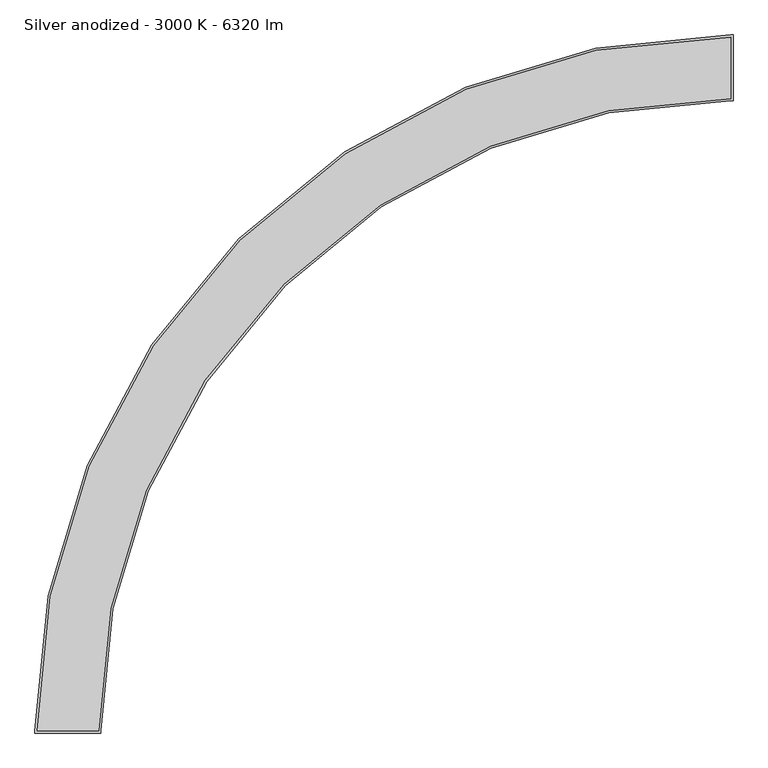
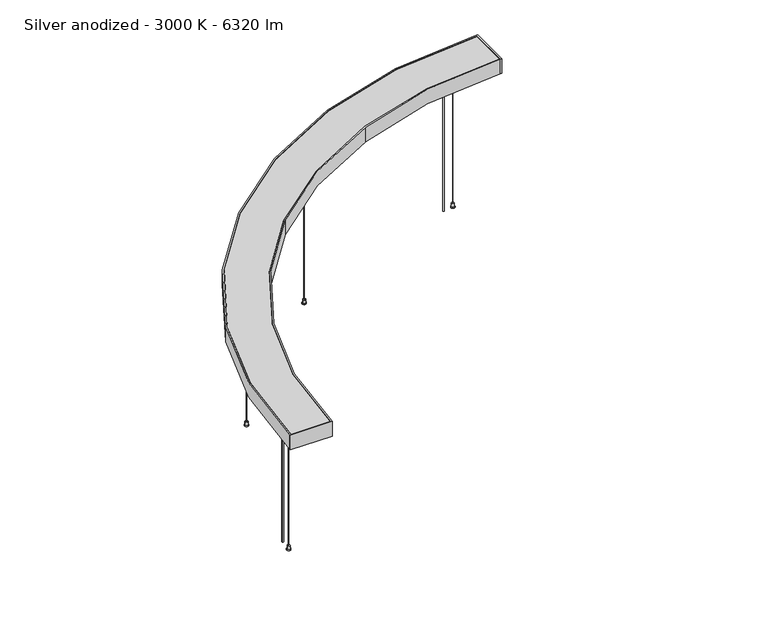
"""IFC4 building model written with IfcOpenShell, lengths in millimetres: light fixture geometry, KLUŚ - MIFOR - MI-SNAKE-02 : Silver anodized - 3000 K - 6320 lm."""

from ifc_helpers import new_model, si_unit, point, frame, frame_2d, origin, origin_with_axes, place, context, project, spatial, polyline, circle_curve, trimmed, segment, composite_curve, outline, extrude, source, transform, mapped, element, save


def silver_anodized_3000_k_6320_lm_d5955773(model_context):
    return source(origin(), model_context, "Body", "SweptSolid", [
        extrude(outline(composite_curve([segment(trimmed(circle_curve(frame_2d((-583.6634227, -763.1111727)), 1.75), [point((-581.9134227, -763.1111727))], [point((-585.4134227, -763.1111727))], False, "CARTESIAN"), True, "CONTINUOUS"), segment(trimmed(circle_curve(frame_2d((-583.6634227, -763.1111727)), 1.75), [point((-585.4134227, -763.1111727))], [point((-581.9134227, -763.1111727))], False, "CARTESIAN"), True, "CONTINUOUS")], self_intersect=False)), frame((0.0, 0.0, 500.5), z_axis=(0.0, 0.0, 1.0), x_axis=(1.0, 0.0, 0.0)), (0.0, 0.0, 1.0), 3.5),
        extrude(outline(composite_curve([segment(trimmed(circle_curve(frame_2d((-361.5367234, -117.0732088)), 1.75), [point((-359.7867234, -117.0732088))], [point((-363.2867234, -117.0732088))], False, "CARTESIAN"), True, "CONTINUOUS"), segment(trimmed(circle_curve(frame_2d((-361.5367234, -117.0732088)), 1.75), [point((-363.2867234, -117.0732088))], [point((-359.7867234, -117.0732088))], False, "CARTESIAN"), True, "CONTINUOUS")], self_intersect=False)), frame((0.0, 0.0, 500.5), z_axis=(0.0, 0.0, 1.0), x_axis=(1.0, 0.0, 0.0)), (0.0, 0.0, 1.0), 3.5),
        extrude(outline(composite_curve([segment(trimmed(circle_curve(frame_2d((123.4703097, 365.5194387)), 1.75), [point((125.2203097, 365.5194387))], [point((121.7203097, 365.5194387))], False, "CARTESIAN"), True, "CONTINUOUS"), segment(trimmed(circle_curve(frame_2d((123.4703097, 365.5194387)), 1.75), [point((121.7203097, 365.5194387))], [point((125.2203097, 365.5194387))], False, "CARTESIAN"), True, "CONTINUOUS")], self_intersect=False)), frame((0.0, 0.0, 500.5), z_axis=(0.0, 0.0, 1.0), x_axis=(1.0, 0.0, 0.0)), (0.0, 0.0, 1.0), 3.5),
        extrude(outline(composite_curve([segment(trimmed(circle_curve(frame_2d((782.9245171, 585.579149)), 1.75), [point((784.6745171, 585.579149))], [point((781.1745171, 585.579149))], False, "CARTESIAN"), True, "CONTINUOUS"), segment(trimmed(circle_curve(frame_2d((782.9245171, 585.579149)), 1.75), [point((781.1745171, 585.579149))], [point((784.6745171, 585.579149))], False, "CARTESIAN"), True, "CONTINUOUS")], self_intersect=False)), frame((0.0, 0.0, 500.5), z_axis=(0.0, 0.0, 1.0), x_axis=(1.0, 0.0, 0.0)), (0.0, 0.0, 1.0), 3.5),
        extrude(outline(composite_curve([segment(trimmed(circle_curve(frame_2d((-583.6634227, -763.1111727)), 5.0), [point((-578.6634227, -763.1111727))], [point((-588.6634227, -763.1111727))], False, "CARTESIAN"), True, "CONTINUOUS"), segment(trimmed(circle_curve(frame_2d((-583.6634227, -763.1111727)), 5.0), [point((-588.6634227, -763.1111727))], [point((-578.6634227, -763.1111727))], False, "CARTESIAN"), True, "CONTINUOUS")], self_intersect=False)), frame((0.0, 0.0, 3.0), z_axis=(0.0, 0.0, 1.0), x_axis=(1.0, 0.0, 0.0)), (0.0, 0.0, 1.0), 12.0),
        extrude(outline(composite_curve([segment(trimmed(circle_curve(frame_2d((-361.5367234, -117.0732088)), 5.0), [point((-356.5367234, -117.0732088))], [point((-366.5367234, -117.0732088))], False, "CARTESIAN"), True, "CONTINUOUS"), segment(trimmed(circle_curve(frame_2d((-361.5367234, -117.0732088)), 5.0), [point((-366.5367234, -117.0732088))], [point((-356.5367234, -117.0732088))], False, "CARTESIAN"), True, "CONTINUOUS")], self_intersect=False)), frame((0.0, 0.0, 3.0), z_axis=(0.0, 0.0, 1.0), x_axis=(1.0, 0.0, 0.0)), (0.0, 0.0, 1.0), 12.0),
        extrude(outline(composite_curve([segment(trimmed(circle_curve(frame_2d((123.4703097, 365.5194387)), 5.0), [point((128.4703097, 365.5194387))], [point((118.4703097, 365.5194387))], False, "CARTESIAN"), True, "CONTINUOUS"), segment(trimmed(circle_curve(frame_2d((123.4703097, 365.5194387)), 5.0), [point((118.4703097, 365.5194387))], [point((128.4703097, 365.5194387))], False, "CARTESIAN"), True, "CONTINUOUS")], self_intersect=False)), frame((0.0, 0.0, 3.0), z_axis=(0.0, 0.0, 1.0), x_axis=(1.0, 0.0, 0.0)), (0.0, 0.0, 1.0), 12.0),
        extrude(outline(composite_curve([segment(trimmed(circle_curve(frame_2d((782.9245171, 585.579149)), 5.0), [point((787.9245171, 585.579149))], [point((777.9245171, 585.579149))], False, "CARTESIAN"), True, "CONTINUOUS"), segment(trimmed(circle_curve(frame_2d((782.9245171, 585.579149)), 5.0), [point((777.9245171, 585.579149))], [point((787.9245171, 585.579149))], False, "CARTESIAN"), True, "CONTINUOUS")], self_intersect=False)), frame((0.0, 0.0, 3.0), z_axis=(0.0, 0.0, 1.0), x_axis=(1.0, 0.0, 0.0)), (0.0, 0.0, 1.0), 12.0),
        extrude(outline(composite_curve([segment(trimmed(circle_curve(frame_2d((-578.2793624, -717.7383985)), 2.5), [point((-575.7793624, -717.7383985))], [point((-580.7793624, -717.7383985))], False, "CARTESIAN"), True, "CONTINUOUS"), segment(trimmed(circle_curve(frame_2d((-578.2793624, -717.7383985)), 2.5), [point((-580.7793624, -717.7383985))], [point((-575.7793624, -717.7383985))], False, "CARTESIAN"), True, "CONTINUOUS")], self_intersect=False)), origin_with_axes(), (0.0, 0.0, 1.0), 516.0),
        extrude(outline(composite_curve([segment(trimmed(circle_curve(frame_2d((747.7004526, 581.9907971)), 2.5), [point((750.2004526, 581.9907971))], [point((745.2004526, 581.9907971))], False, "CARTESIAN"), True, "CONTINUOUS"), segment(trimmed(circle_curve(frame_2d((747.7004526, 581.9907971)), 2.5), [point((745.2004526, 581.9907971))], [point((750.2004526, 581.9907971))], False, "CARTESIAN"), True, "CONTINUOUS")], self_intersect=False)), origin_with_axes(), (0.0, 0.0, 1.0), 516.0),
        extrude(outline(composite_curve([segment(polyline([(-521.6630987, -913.3369012), (-661.6630987, -913.3369012)]), True, "CONTINUOUS"), segment(trimmed(circle_curve(frame_2d((913.3369012, -913.3369012)), 1574.9999999), [point((-661.6630987, -913.3369012))], [point((-542.8034853, -313.1034678))], False, "CARTESIAN"), True, "CONTINUOUS"), segment(trimmed(circle_curve(frame_2d((913.3369012, -913.3369012)), 1574.9999999), [point((-542.8034853, -313.1034678))], [point((-200.3562792, 200.3562791))], False, "CARTESIAN"), True, "CONTINUOUS"), segment(trimmed(circle_curve(frame_2d((913.3369012, -913.3369012)), 1574.9999999), [point((-200.3562792, 200.3562791))], [point((313.1034678, 542.8034853))], False, "CARTESIAN"), True, "CONTINUOUS"), segment(trimmed(circle_curve(frame_2d((913.3369012, -913.3369012)), 1574.9999999), [point((313.1034678, 542.8034853))], [point((913.3369012, 661.6630987))], False, "CARTESIAN"), True, "CONTINUOUS"), segment(polyline([(913.3369012, 661.6630987), (913.3369012, 521.6630987)]), True, "CONTINUOUS"), segment(trimmed(circle_curve(frame_2d((913.3369012, -913.3369012)), 1434.9999999), [point((913.3369012, 521.6630987))], [point((366.6353508, 413.4420611))], True, "CARTESIAN"), True, "CONTINUOUS"), segment(trimmed(circle_curve(frame_2d((913.3369012, -913.3369012)), 1434.9999999), [point((366.6353508, 413.4420611))], [point((-101.8360129, 100.8864244))], True, "CARTESIAN"), True, "CONTINUOUS"), segment(trimmed(circle_curve(frame_2d((913.3369012, -913.3369012)), 1434.9999999), [point((-101.8360129, 100.8864244))], [point((-413.4670089, -366.6959003))], True, "CARTESIAN"), True, "CONTINUOUS"), segment(trimmed(circle_curve(frame_2d((913.3369012, -913.3369012)), 1434.9999999), [point((-413.4670089, -366.6959003))], [point((-521.6630987, -913.3369012))], True, "CARTESIAN"), True, "CONTINUOUS")], self_intersect=False)), frame((0.0, 0.0, 516.0), z_axis=(0.0, 0.0, 1.0), x_axis=(1.0, 0.0, 0.0)), (0.0, 0.0, 1.0), 2.0),
        extrude(outline(composite_curve([segment(polyline([(-521.6630987, -913.3369012), (-661.6630987, -913.3369012)]), True, "CONTINUOUS"), segment(trimmed(circle_curve(frame_2d((913.3369012, -913.3369012)), 1574.9999999), [point((-661.6630987, -913.3369012))], [point((-542.8034853, -313.1034678))], False, "CARTESIAN"), True, "CONTINUOUS"), segment(trimmed(circle_curve(frame_2d((913.3369012, -913.3369012)), 1574.9999999), [point((-542.8034853, -313.1034678))], [point((-200.3562792, 200.3562791))], False, "CARTESIAN"), True, "CONTINUOUS"), segment(trimmed(circle_curve(frame_2d((913.3369012, -913.3369012)), 1574.9999999), [point((-200.3562792, 200.3562791))], [point((313.1034678, 542.8034853))], False, "CARTESIAN"), True, "CONTINUOUS"), segment(trimmed(circle_curve(frame_2d((913.3369012, -913.3369012)), 1574.9999999), [point((313.1034678, 542.8034853))], [point((913.3369012, 661.6630987))], False, "CARTESIAN"), True, "CONTINUOUS"), segment(polyline([(913.3369012, 661.6630987), (913.3369012, 521.6630987)]), True, "CONTINUOUS"), segment(trimmed(circle_curve(frame_2d((913.3369012, -913.3369012)), 1434.9999999), [point((913.3369012, 521.6630987))], [point((366.6353508, 413.4420611))], True, "CARTESIAN"), True, "CONTINUOUS"), segment(trimmed(circle_curve(frame_2d((913.3369012, -913.3369012)), 1434.9999999), [point((366.6353508, 413.4420611))], [point((-101.8360129, 100.8864244))], True, "CARTESIAN"), True, "CONTINUOUS"), segment(trimmed(circle_curve(frame_2d((913.3369012, -913.3369012)), 1434.9999999), [point((-101.8360129, 100.8864244))], [point((-413.4670089, -366.6959003))], True, "CARTESIAN"), True, "CONTINUOUS"), segment(trimmed(circle_curve(frame_2d((913.3369012, -913.3369012)), 1434.9999999), [point((-413.4670089, -366.6959003))], [point((-521.6630987, -913.3369012))], True, "CARTESIAN"), True, "CONTINUOUS")], self_intersect=False)), frame((0.0, 0.0, 551.0), z_axis=(0.0, 0.0, 1.0), x_axis=(1.0, 0.0, 0.0)), (0.0, 0.0, 1.0), 2.0),
        extrude(outline(composite_curve([segment(polyline([(-516.6630987, -918.3369012), (-666.6630987, -918.3369012), (-666.6630987, -913.3369012)]), True, "CONTINUOUS"), segment(trimmed(circle_curve(frame_2d((913.3369012, -913.3369012)), 1579.9999999), [point((-666.6630987, -913.3369012))], [point((-547.4261532, -311.1979649))], False, "CARTESIAN"), True, "CONTINUOUS"), segment(trimmed(circle_curve(frame_2d((913.3369012, -913.3369012)), 1579.9999999), [point((-547.4261532, -311.1979649))], [point((-203.8918131, 203.891813))], False, "CARTESIAN"), True, "CONTINUOUS"), segment(trimmed(circle_curve(frame_2d((913.3369012, -913.3369012)), 1579.9999999), [point((-203.8918131, 203.891813))], [point((311.1979648, 547.4261532))], False, "CARTESIAN"), True, "CONTINUOUS"), segment(trimmed(circle_curve(frame_2d((913.3369012, -913.3369012)), 1579.9999999), [point((311.1979648, 547.4261532))], [point((913.3369012, 666.6630987))], False, "CARTESIAN"), True, "CONTINUOUS"), segment(polyline([(913.3369012, 666.6630987), (918.3369013, 666.6630987), (918.3369013, 516.6630987), (913.3369012, 516.6630987)]), True, "CONTINUOUS"), segment(trimmed(circle_curve(frame_2d((913.3369012, -913.3369012)), 1429.9999999), [point((913.3369012, 516.6630987))], [point((368.5402343, 408.8191378))], True, "CARTESIAN"), True, "CONTINUOUS"), segment(trimmed(circle_curve(frame_2d((913.3369012, -913.3369012)), 1429.9999999), [point((368.5402343, 408.8191378))], [point((-98.2988251, 97.3525452))], True, "CARTESIAN"), True, "CONTINUOUS"), segment(trimmed(circle_curve(frame_2d((913.3369012, -913.3369012)), 1429.9999999), [point((-98.2988251, 97.3525452))], [point((-408.8439988, -368.6005727))], True, "CARTESIAN"), True, "CONTINUOUS"), segment(trimmed(circle_curve(frame_2d((913.3369012, -913.3369012)), 1429.9999999), [point((-408.8439988, -368.6005727))], [point((-516.6630987, -913.3369012))], True, "CARTESIAN"), True, "CONTINUOUS"), segment(polyline([(-516.6630987, -913.3369012), (-516.6630987, -918.3369012)]), True, "CONTINUOUS")], self_intersect=False), holes=[composite_curve([segment(trimmed(circle_curve(frame_2d((913.3369012, -913.3369013)), 1434.9999999), [point((-521.6630987, -913.3369012))], [point((-413.4670089, -366.6959003))], False, "CARTESIAN"), True, "CONTINUOUS"), segment(trimmed(circle_curve(frame_2d((913.3369012, -913.3369012)), 1434.9999999), [point((-413.4670089, -366.6959003))], [point((-101.8360129, 100.8864244))], False, "CARTESIAN"), True, "CONTINUOUS"), segment(trimmed(circle_curve(frame_2d((913.3369012, -913.3369012)), 1434.9999999), [point((-101.8360129, 100.8864244))], [point((366.6353508, 413.4420611))], False, "CARTESIAN"), True, "CONTINUOUS"), segment(trimmed(circle_curve(frame_2d((913.3369012, -913.3369012)), 1434.9999999), [point((366.6353508, 413.4420611))], [point((913.3369012, 521.6630987))], False, "CARTESIAN"), True, "CONTINUOUS"), segment(polyline([(913.3369012, 521.6630987), (913.3369012, 661.6630987)]), True, "CONTINUOUS"), segment(trimmed(circle_curve(frame_2d((913.3369012, -913.3369012)), 1574.9999999), [point((913.3369012, 661.6630987))], [point((313.1034678, 542.8034853))], True, "CARTESIAN"), True, "CONTINUOUS"), segment(trimmed(circle_curve(frame_2d((913.3369012, -913.3369012)), 1574.9999999), [point((313.1034678, 542.8034853))], [point((-200.3562792, 200.3562791))], True, "CARTESIAN"), True, "CONTINUOUS"), segment(trimmed(circle_curve(frame_2d((913.3369012, -913.3369012)), 1574.9999999), [point((-200.3562792, 200.3562791))], [point((-542.8034853, -313.1034678))], True, "CARTESIAN"), True, "CONTINUOUS"), segment(trimmed(circle_curve(frame_2d((913.3369012, -913.3369012)), 1574.9999999), [point((-542.8034853, -313.1034678))], [point((-661.6630987, -913.3369012))], True, "CARTESIAN"), True, "CONTINUOUS"), segment(polyline([(-661.6630987, -913.3369012), (-521.6630987, -913.3369012)]), True, "CONTINUOUS")], self_intersect=False)]), frame((0.0, 0.0, 500.0), z_axis=(0.0, 0.0, 1.0), x_axis=(1.0, 0.0, 0.0)), (0.0, 0.0, 1.0), 55.0),
        extrude(outline(composite_curve([segment(trimmed(circle_curve(frame_2d((-583.6634227, -763.1111727)), 0.5), [point((-583.1634227, -763.1111727))], [point((-584.1634227, -763.1111727))], False, "CARTESIAN"), True, "CONTINUOUS"), segment(trimmed(circle_curve(frame_2d((-583.6634227, -763.1111727)), 0.5), [point((-584.1634227, -763.1111727))], [point((-583.1634227, -763.1111727))], False, "CARTESIAN"), True, "CONTINUOUS")], self_intersect=False)), frame((0.0, 0.0, 15.0), z_axis=(0.0, 0.0, 1.0), x_axis=(1.0, 0.0, 0.0)), (0.0, 0.0, 1.0), 485.5),
        extrude(outline(composite_curve([segment(trimmed(circle_curve(frame_2d((-361.5367234, -117.0732088)), 0.5), [point((-361.0367234, -117.0732088))], [point((-362.0367234, -117.0732088))], False, "CARTESIAN"), True, "CONTINUOUS"), segment(trimmed(circle_curve(frame_2d((-361.5367234, -117.0732088)), 0.5), [point((-362.0367234, -117.0732088))], [point((-361.0367234, -117.0732088))], False, "CARTESIAN"), True, "CONTINUOUS")], self_intersect=False)), frame((0.0, 0.0, 15.0), z_axis=(0.0, 0.0, 1.0), x_axis=(1.0, 0.0, 0.0)), (0.0, 0.0, 1.0), 485.5),
        extrude(outline(composite_curve([segment(trimmed(circle_curve(frame_2d((782.9245171, 585.579149)), 0.5), [point((783.4245171, 585.579149))], [point((782.4245171, 585.579149))], False, "CARTESIAN"), True, "CONTINUOUS"), segment(trimmed(circle_curve(frame_2d((782.9245171, 585.579149)), 0.5), [point((782.4245171, 585.579149))], [point((783.4245171, 585.579149))], False, "CARTESIAN"), True, "CONTINUOUS")], self_intersect=False)), frame((0.0, 0.0, 15.0), z_axis=(0.0, 0.0, 1.0), x_axis=(1.0, 0.0, 0.0)), (0.0, 0.0, 1.0), 485.5),
        extrude(outline(composite_curve([segment(trimmed(circle_curve(frame_2d((123.4703097, 365.5194387)), 0.5), [point((123.9703097, 365.5194387))], [point((122.9703097, 365.5194387))], False, "CARTESIAN"), True, "CONTINUOUS"), segment(trimmed(circle_curve(frame_2d((123.4703097, 365.5194387)), 0.5), [point((122.9703097, 365.5194387))], [point((123.9703097, 365.5194387))], False, "CARTESIAN"), True, "CONTINUOUS")], self_intersect=False)), frame((0.0, 0.0, 15.0), z_axis=(0.0, 0.0, 1.0), x_axis=(1.0, 0.0, 0.0)), (0.0, 0.0, 1.0), 485.5),
        extrude(outline(composite_curve([segment(trimmed(circle_curve(frame_2d((-583.6634227, -763.1111727)), 4.0), [point((-579.6634227, -763.1111727))], [point((-587.6634227, -763.1111727))], False, "CARTESIAN"), True, "CONTINUOUS"), segment(trimmed(circle_curve(frame_2d((-583.6634227, -763.1111727)), 4.0), [point((-587.6634227, -763.1111727))], [point((-579.6634227, -763.1111727))], False, "CARTESIAN"), True, "CONTINUOUS")], self_intersect=False)), frame((0.0, 0.0, 504.0), z_axis=(0.0, 0.0, 1.0), x_axis=(1.0, 0.0, 0.0)), (0.0, 0.0, 1.0), 12.0),
        extrude(outline(composite_curve([segment(trimmed(circle_curve(frame_2d((-361.5367234, -117.0732088)), 4.0), [point((-357.5367234, -117.0732088))], [point((-365.5367234, -117.0732088))], False, "CARTESIAN"), True, "CONTINUOUS"), segment(trimmed(circle_curve(frame_2d((-361.5367234, -117.0732088)), 4.0), [point((-365.5367234, -117.0732088))], [point((-357.5367234, -117.0732088))], False, "CARTESIAN"), True, "CONTINUOUS")], self_intersect=False)), frame((0.0, 0.0, 504.0), z_axis=(0.0, 0.0, 1.0), x_axis=(1.0, 0.0, 0.0)), (0.0, 0.0, 1.0), 12.0),
        extrude(outline(composite_curve([segment(trimmed(circle_curve(frame_2d((123.4703097, 365.5194387)), 4.0), [point((127.4703097, 365.5194387))], [point((119.4703097, 365.5194387))], False, "CARTESIAN"), True, "CONTINUOUS"), segment(trimmed(circle_curve(frame_2d((123.4703097, 365.5194387)), 4.0), [point((119.4703097, 365.5194387))], [point((127.4703097, 365.5194387))], False, "CARTESIAN"), True, "CONTINUOUS")], self_intersect=False)), frame((0.0, 0.0, 504.0), z_axis=(0.0, 0.0, 1.0), x_axis=(1.0, 0.0, 0.0)), (0.0, 0.0, 1.0), 12.0),
        extrude(outline(composite_curve([segment(trimmed(circle_curve(frame_2d((782.9245171, 585.579149)), 4.0), [point((786.9245171, 585.579149))], [point((778.9245171, 585.579149))], False, "CARTESIAN"), True, "CONTINUOUS"), segment(trimmed(circle_curve(frame_2d((782.9245171, 585.579149)), 4.0), [point((778.9245171, 585.579149))], [point((786.9245171, 585.579149))], False, "CARTESIAN"), True, "CONTINUOUS")], self_intersect=False)), frame((0.0, 0.0, 504.0), z_axis=(0.0, 0.0, 1.0), x_axis=(1.0, 0.0, 0.0)), (0.0, 0.0, 1.0), 12.0),
        extrude(outline(composite_curve([segment(trimmed(circle_curve(frame_2d((-583.6634227, -763.1111727)), 7.0), [point((-576.6634227, -763.1111727))], [point((-590.6634227, -763.1111727))], False, "CARTESIAN"), True, "CONTINUOUS"), segment(trimmed(circle_curve(frame_2d((-583.6634227, -763.1111727)), 7.0), [point((-590.6634227, -763.1111727))], [point((-576.6634227, -763.1111727))], False, "CARTESIAN"), True, "CONTINUOUS")], self_intersect=False)), origin_with_axes(), (0.0, 0.0, 1.0), 3.0),
        extrude(outline(composite_curve([segment(trimmed(circle_curve(frame_2d((-361.5367234, -117.0732088)), 7.0), [point((-354.5367234, -117.0732088))], [point((-368.5367234, -117.0732088))], False, "CARTESIAN"), True, "CONTINUOUS"), segment(trimmed(circle_curve(frame_2d((-361.5367234, -117.0732088)), 7.0), [point((-368.5367234, -117.0732088))], [point((-354.5367234, -117.0732088))], False, "CARTESIAN"), True, "CONTINUOUS")], self_intersect=False)), origin_with_axes(), (0.0, 0.0, 1.0), 3.0),
        extrude(outline(composite_curve([segment(trimmed(circle_curve(frame_2d((123.4703097, 365.5194387)), 7.0), [point((130.4703097, 365.5194387))], [point((116.4703097, 365.5194387))], False, "CARTESIAN"), True, "CONTINUOUS"), segment(trimmed(circle_curve(frame_2d((123.4703097, 365.5194387)), 7.0), [point((116.4703097, 365.5194387))], [point((130.4703097, 365.5194387))], False, "CARTESIAN"), True, "CONTINUOUS")], self_intersect=False)), origin_with_axes(), (0.0, 0.0, 1.0), 3.0),
        extrude(outline(composite_curve([segment(trimmed(circle_curve(frame_2d((782.9245171, 585.579149)), 7.0), [point((789.9245171, 585.579149))], [point((775.9245171, 585.579149))], False, "CARTESIAN"), True, "CONTINUOUS"), segment(trimmed(circle_curve(frame_2d((782.9245171, 585.579149)), 7.0), [point((775.9245171, 585.579149))], [point((789.9245171, 585.579149))], False, "CARTESIAN"), True, "CONTINUOUS")], self_intersect=False)), origin_with_axes(), (0.0, 0.0, 1.0), 3.0),
    ])


if __name__ == "__main__":
    model = new_model("IFC4")
    model_context = context("Model", 3, world=origin())
    ifc_project = project(units=[si_unit("LENGTHUNIT", "METRE", prefix="MILLI")], contexts=[model_context])
    site = spatial("IfcSite", under=ifc_project)
    building = spatial("IfcBuilding", under=site)
    placement = place(None, origin())
    silver_anodized_3000_k_6320_lm_shape = silver_anodized_3000_k_6320_lm_d5955773(model_context)
    element("IfcLightFixture", 1, ObjectType="KLUŚ - MIFOR - MI-SNAKE-02 : Silver anodized - 3000 K - 6320 lm", at=placement, inside=building, context=model_context, shape_type="MappedRepresentation", body=[
        mapped(silver_anodized_3000_k_6320_lm_shape, transform((0.0, 0.0, 0.0), x_axis=(1.0, 0.0, 0.0), y_axis=(0.0, 1.0, 0.0), z_axis=(0.0, 0.0, 1.0))),
    ])
    save(model, "model.ifc")
